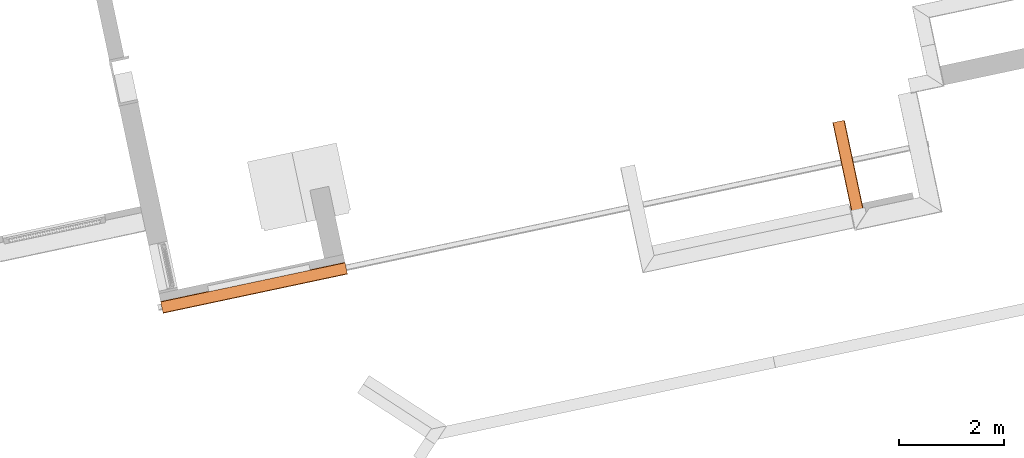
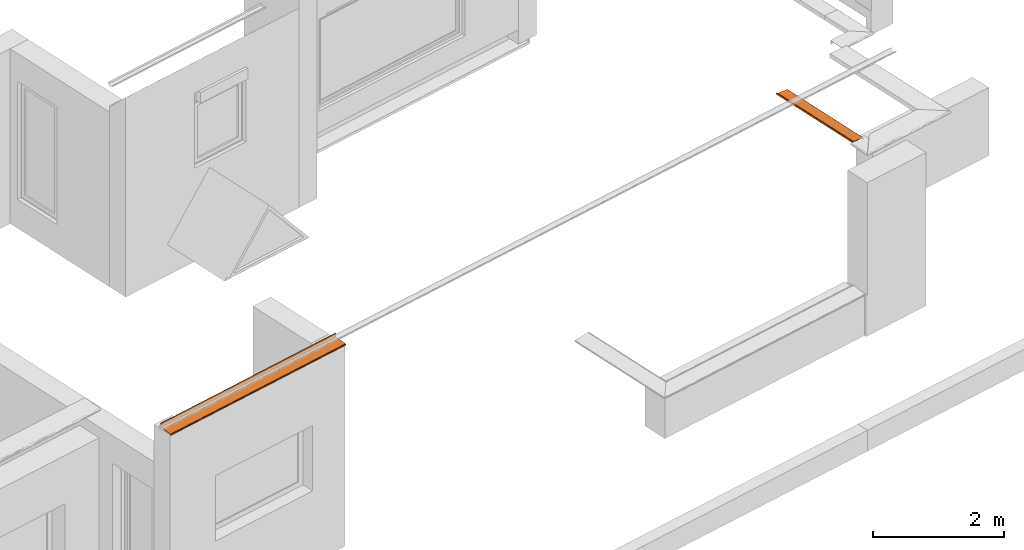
# One storey, part 16 of 22: 2 proxies.
"""IFC2X3 building model written with IfcOpenShell, lengths in centimetres."""

import ifcopenshell
import ifcopenshell.guid

model = None  # the IFC model being written
_history = None  # IfcOwnerHistory: only IFC2X3 demands one
_inside = {}  # id of a spatial element -> (the spatial element, [elements in it])
_under = {}  # id of a project, library or spatial element -> (it, [spatial elements below it])
_declared = {}  # id of a project -> (the project, [libraries it declares])
_typed = {}  # id of a type object -> (the type object, [elements of that type])
_made_of = {}  # id of a material, layer set ... -> (it, [elements and type objects made of it])


def new_model(schema):
    """Start an empty IFC model of exactly this schema.

    Asked for "IFC4X3", IfcOpenShell would pick the latest addendum, in which some entities
    have other attributes; the version numbers below select the first issue.
    IFC2X3 requires an IfcOwnerHistory on every rooted entity: one is made here for all.
    """
    global model, _history
    if schema == "IFC4X3":
        model = ifcopenshell.file(schema_version=(4, 3, 0, 0))
    else:
        model = ifcopenshell.file(schema=schema)
    _inside.clear()
    _under.clear()
    _declared.clear()
    _typed.clear()
    _made_of.clear()
    _history = None
    if model.schema == "IFC2X3":
        org = make("IfcOrganization", Name="unknown")
        user = make(
            "IfcPersonAndOrganization",
            ThePerson=make("IfcPerson", FamilyName="unknown"),
            TheOrganization=org,
        )
        app = make(
            "IfcApplication",
            ApplicationDeveloper=org,
            Version="unknown",
            ApplicationFullName="unknown",
            ApplicationIdentifier="unknown",
        )
        _history = make(
            "IfcOwnerHistory",
            OwningUser=user,
            OwningApplication=app,
            ChangeAction="ADDED",
            CreationDate=0,
        )
    return model


def make(cls, **values):
    """One entity of the class cls with the attributes given. An attribute that is None is left unset."""
    return model.create_entity(
        cls, **{name: value for name, value in values.items() if value is not None}
    )


def entity(cls, *values):
    """Any entity or typed value of the class cls, its attributes in the order of the schema. None: left unset."""
    e = model.create_entity(cls)
    for i, value in enumerate(values):
        if value is not None:
            e[i] = value
    return e


def rooted(cls, **values):
    """An entity with a GlobalId (a new one), such as an element, a storey or a relation."""
    return make(cls, GlobalId=ifcopenshell.guid.new(), OwnerHistory=_history, **values)


def si_unit(unit_type, name, prefix=None):
    """IfcSIUnit, for example si_unit("LENGTHUNIT", "METRE", prefix="MILLI")."""
    return make("IfcSIUnit", UnitType=unit_type, Prefix=prefix, Name=name)


def converted_unit(unit_type, name, factor, base, dimensions=None, offset=None):
    """IfcConversionBasedUnit, such as the inch: factor (a typed value) times the base unit."""
    return make(
        "IfcConversionBasedUnit"
        if offset is None
        else "IfcConversionBasedUnitWithOffset",
        ConversionOffset=offset,
        Dimensions=None
        if dimensions is None
        else entity("IfcDimensionalExponents", *dimensions),
        UnitType=unit_type,
        Name=name,
        ConversionFactor=make(
            "IfcMeasureWithUnit", ValueComponent=factor, UnitComponent=base
        ),
    )


def derived_unit(unit_type, elements):
    """IfcDerivedUnit: a product of units, each with its exponent."""
    return make(
        "IfcDerivedUnit",
        Elements=[
            make("IfcDerivedUnitElement", Unit=unit, Exponent=power)
            for unit, power in elements
        ],
        UnitType=unit_type,
    )


def assignment(units):
    """IfcUnitAssignment: the units of a project."""
    return None if units is None else make("IfcUnitAssignment", Units=units)


def point(xyz):
    """IfcCartesianPoint."""
    return None if xyz is None else make("IfcCartesianPoint", Coordinates=xyz)


def direction(xyz):
    """IfcDirection."""
    return None if xyz is None else make("IfcDirection", DirectionRatios=xyz)


def frame(location, z_axis=None, x_axis=None):
    """IfcAxis2Placement3D, a coordinate frame: its origin and axes. An axis left out is left unset."""
    return make(
        "IfcAxis2Placement3D",
        Location=point(location),
        Axis=direction(z_axis),
        RefDirection=direction(x_axis),
    )


def frame_2d(location, x_axis=None):
    """IfcAxis2Placement2D, a coordinate frame in the plane: its origin and x axis."""
    return make(
        "IfcAxis2Placement2D", Location=point(location), RefDirection=direction(x_axis)
    )


def origin():
    """The frame at (0, 0, 0) with its axes left unset."""
    return frame((0.0, 0.0, 0.0))


def place(relative_to, where):
    """IfcLocalPlacement: puts the frame where relative to a parent placement (None: the world)."""
    return make(
        "IfcLocalPlacement", PlacementRelTo=relative_to, RelativePlacement=where
    )


def context(
    kind, dimensions, precision=None, world=None, true_north=None, identifier=None
):
    """IfcGeometricRepresentationContext, for example the 3D "Model" context."""
    return make(
        "IfcGeometricRepresentationContext",
        ContextIdentifier=identifier,
        ContextType=kind,
        CoordinateSpaceDimension=dimensions,
        Precision=precision,
        WorldCoordinateSystem=world,
        TrueNorth=true_north,
    )


def subcontext(parent, identifier, kind, view, scale=None):
    """IfcGeometricRepresentationSubContext, for example "Body" below "Model"."""
    return make(
        "IfcGeometricRepresentationSubContext",
        ContextIdentifier=identifier,
        ContextType=kind,
        ParentContext=parent,
        TargetScale=scale,
        TargetView=view,
    )


def project(units=None, contexts=None):
    """IfcProject with its units and contexts."""
    return rooted(
        "IfcProject",
        Name="project",
        RepresentationContexts=contexts,
        UnitsInContext=assignment(units),
    )


def spatial(cls, under=None, at=None, **own):
    """A site, building, storey or space (cls), placed at a placement, below another one or the project."""
    s = rooted(cls, ObjectPlacement=at, **own)
    if under is not None:
        _under.setdefault(under.id(), (under, []))[1].append(s)
    return s


def polyline(points):
    """IfcPolyline through the points."""
    return make("IfcPolyline", Points=[point(p) for p in points])


def circle_curve(where, radius):
    """IfcCircle in the frame where."""
    return make("IfcCircle", Position=where, Radius=radius)


def parameter(value):
    """IfcParameterValue: where a trimmed curve begins or ends, as a parameter of its basis curve."""
    return model.create_entity("IfcParameterValue", value)


def trimmed(basis, trim1, trim2, sense, master):
    """IfcTrimmedCurve: the piece of a basis curve between two trims."""
    return make(
        "IfcTrimmedCurve",
        BasisCurve=basis,
        Trim1=trim1,
        Trim2=trim2,
        SenseAgreement=sense,
        MasterRepresentation=master,
    )


def segment(curve, same_sense, transition):
    """IfcCompositeCurveSegment."""
    return make(
        "IfcCompositeCurveSegment",
        Transition=transition,
        SameSense=same_sense,
        ParentCurve=curve,
    )


def composite_curve(segments, self_intersect=None):
    """IfcCompositeCurve: segments joined end to end."""
    return make("IfcCompositeCurve", Segments=segments, SelfIntersect=self_intersect)


def outline(outer, holes=None, kind="AREA"):
    """IfcArbitraryClosedProfileDef: a profile drawn as a closed curve; with holes, ...WithVoids."""
    if holes is None:
        return make("IfcArbitraryClosedProfileDef", ProfileType=kind, OuterCurve=outer)
    return make(
        "IfcArbitraryProfileDefWithVoids",
        ProfileType=kind,
        OuterCurve=outer,
        InnerCurves=holes,
    )


def extrude(swept, where, along, depth):
    """IfcExtrudedAreaSolid: the profile swept, set in the frame where, extruded along a direction by depth."""
    return make(
        "IfcExtrudedAreaSolid",
        SweptArea=swept,
        Position=where,
        ExtrudedDirection=direction(along),
        Depth=depth,
    )


def shape(context_of_items, identifier, shape_type, items):
    """IfcShapeRepresentation: the items that make up one representation, for example the "Body"."""
    return make(
        "IfcShapeRepresentation",
        ContextOfItems=context_of_items,
        RepresentationIdentifier=identifier,
        RepresentationType=shape_type,
        Items=items,
    )


def made_of(thing, what):
    """Note that an element or type object is made of a material, layer set ...; save() writes the relation."""
    if what is not None:
        _made_of.setdefault(what.id(), (what, []))[1].append(thing)
    return thing


def type_object(cls, material=None, **own):
    """A type object (cls), such as IfcWallType, which elements share."""
    return made_of(rooted(cls, **own), material)


def element(
    cls,
    number,
    at=None,
    inside=None,
    cuts=None,
    type_object=None,
    material=None,
    context=None,
    identifier="Body",
    shape_type=None,
    held_by="IfcProductDefinitionShape",
    body=None,
    shapes=None,
    **own,
):
    """One element of the class cls, such as IfcWall. Its Tag is "e" and its number.

    at: its placement. inside: the storey or other place that contains it. cuts: it is an
    opening in that element (IfcRelVoidsElement). A single representation is given by context,
    identifier, shape_type and body (its items); several are given by shapes. held_by: the class
    of the entity that holds the representations. save() writes the other relations.
    """
    e = rooted(cls, Tag="e%d" % number, ObjectPlacement=at, **own)
    if body is not None:
        shapes = [shape(context, identifier, shape_type, body)]
    if shapes is not None:
        e.Representation = make(held_by, Representations=shapes)
    if inside is not None:
        _inside.setdefault(inside.id(), (inside, []))[1].append(e)
    if cuts is not None:
        rooted(
            "IfcRelVoidsElement", RelatingBuildingElement=cuts, RelatedOpeningElement=e
        )
    if type_object is not None:
        _typed.setdefault(type_object.id(), (type_object, []))[1].append(e)
    return made_of(e, material)


def aggregate(whole, parts):
    """IfcRelAggregates: a whole, such as a stair, and the parts it consists of."""
    return rooted("IfcRelAggregates", RelatingObject=whole, RelatedObjects=parts)


def save(model, path):
    """Write the relations noted so far, then the file.

    IfcRelAggregates (storeys below a building ...), IfcRelContainedInSpatialStructure (elements
    in a storey), IfcRelDefinesByType, IfcRelAssociatesMaterial and IfcRelDeclares: one each for
    every whole, place, type object, material and project.
    """
    for whole, parts in _under.values():
        aggregate(whole, parts)
    for where, things in _inside.values():
        rooted(
            "IfcRelContainedInSpatialStructure",
            RelatedElements=things,
            RelatingStructure=where,
        )
    for kind, things in _typed.values():
        rooted("IfcRelDefinesByType", RelatedObjects=things, RelatingType=kind)
    for what, things in _made_of.values():
        rooted("IfcRelAssociatesMaterial", RelatedObjects=things, RelatingMaterial=what)
    for by, libraries in _declared.values():
        rooted("IfcRelDeclares", RelatingContext=by, RelatedDefinitions=libraries)
    model.write(path)


model = new_model("IFC2X3")

# Units and contexts
model_context = context("Model", 3, precision=0.001, world=origin(), true_north=direction((6.12303176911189e-17, 1.0)))
body_context = subcontext(model_context, "Body", "Model", "MODEL_VIEW")
ifc_project = project(units=[si_unit("LENGTHUNIT", "METRE", prefix="CENTI"), si_unit("AREAUNIT", "SQUARE_METRE"), si_unit("VOLUMEUNIT", "CUBIC_METRE"), converted_unit("PLANEANGLEUNIT", "DEGREE", entity("IfcRatioMeasure", 0.0174532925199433), si_unit("PLANEANGLEUNIT", "RADIAN"), dimensions=[0, 0, 0, 0, 0, 0, 0]), si_unit("MASSUNIT", "GRAM", prefix="KILO"), derived_unit("MASSDENSITYUNIT", [(si_unit("MASSUNIT", "GRAM", prefix="KILO"), 1), (si_unit("LENGTHUNIT", "METRE"), -3)]), derived_unit("IONCONCENTRATIONUNIT", [(si_unit("MASSUNIT", "GRAM", prefix="KILO"), 1), (si_unit("LENGTHUNIT", "METRE"), -3)]), derived_unit("MOMENTOFINERTIAUNIT", [(si_unit("LENGTHUNIT", "METRE"), 4)]), si_unit("TIMEUNIT", "SECOND"), si_unit("FREQUENCYUNIT", "HERTZ"), si_unit("THERMODYNAMICTEMPERATUREUNIT", "DEGREE_CELSIUS"), derived_unit("THERMALTRANSMITTANCEUNIT", [(si_unit("MASSUNIT", "GRAM", prefix="KILO"), 1), (si_unit("THERMODYNAMICTEMPERATUREUNIT", "KELVIN"), -1), (si_unit("TIMEUNIT", "SECOND"), -3)]), derived_unit("THERMALCONDUCTANCEUNIT", [(si_unit("MASSUNIT", "GRAM", prefix="KILO"), 1), (si_unit("THERMODYNAMICTEMPERATUREUNIT", "KELVIN"), -1), (si_unit("TIMEUNIT", "SECOND"), -3), (si_unit("LENGTHUNIT", "METRE"), 1)]), derived_unit("VOLUMETRICFLOWRATEUNIT", [(si_unit("LENGTHUNIT", "METRE"), 3), (si_unit("TIMEUNIT", "SECOND"), -1)]), derived_unit("MASSFLOWRATEUNIT", [(si_unit("MASSUNIT", "GRAM", prefix="KILO"), 1), (si_unit("TIMEUNIT", "SECOND"), -1)]), derived_unit("ROTATIONALFREQUENCYUNIT", [(si_unit("TIMEUNIT", "SECOND"), -1)]), si_unit("ELECTRICCURRENTUNIT", "AMPERE"), si_unit("ELECTRICVOLTAGEUNIT", "VOLT"), si_unit("POWERUNIT", "WATT"), si_unit("FORCEUNIT", "NEWTON", prefix="KILO"), si_unit("ILLUMINANCEUNIT", "LUX"), si_unit("LUMINOUSFLUXUNIT", "LUMEN"), si_unit("LUMINOUSINTENSITYUNIT", "CANDELA"), derived_unit("USERDEFINED", [(si_unit("MASSUNIT", "GRAM", prefix="KILO"), -1), (si_unit("LENGTHUNIT", "METRE"), -2), (si_unit("TIMEUNIT", "SECOND"), 3), (si_unit("LUMINOUSFLUXUNIT", "LUMEN"), 1)]), derived_unit("USERDEFINED", [(si_unit("MASSUNIT", "GRAM", prefix="KILO"), 1), (si_unit("TIMEUNIT", "SECOND"), -3), (si_unit("LENGTHUNIT", "METRE"), 3), (si_unit("ELECTRICCURRENTUNIT", "AMPERE"), -2)]), derived_unit("SOUNDPOWERUNIT", [(si_unit("MASSUNIT", "GRAM", prefix="KILO"), 1), (si_unit("TIMEUNIT", "SECOND"), -3), (si_unit("LENGTHUNIT", "METRE"), 2)]), derived_unit("SOUNDPRESSUREUNIT", [(si_unit("MASSUNIT", "GRAM", prefix="KILO"), 1), (si_unit("LENGTHUNIT", "METRE"), -1), (si_unit("TIMEUNIT", "SECOND"), -2)]), derived_unit("LINEARVELOCITYUNIT", [(si_unit("LENGTHUNIT", "METRE"), 1), (si_unit("TIMEUNIT", "SECOND"), -1)]), si_unit("PRESSUREUNIT", "PASCAL"), derived_unit("USERDEFINED", [(si_unit("MASSUNIT", "GRAM", prefix="KILO"), 1), (si_unit("LENGTHUNIT", "METRE"), -2), (si_unit("TIMEUNIT", "SECOND"), -2)]), derived_unit("LINEARFORCEUNIT", [(si_unit("MASSUNIT", "GRAM", prefix="KILO"), 1), (si_unit("TIMEUNIT", "SECOND"), -2)]), derived_unit("PLANARFORCEUNIT", [(si_unit("MASSUNIT", "GRAM", prefix="KILO"), 1), (si_unit("LENGTHUNIT", "METRE"), -1), (si_unit("TIMEUNIT", "SECOND"), -2)]), derived_unit("SPECIFICHEATCAPACITYUNIT", [(si_unit("THERMODYNAMICTEMPERATUREUNIT", "KELVIN"), -1), (si_unit("LENGTHUNIT", "METRE"), 2), (si_unit("TIMEUNIT", "SECOND"), -2)]), derived_unit("HEATINGVALUEUNIT", [(si_unit("LENGTHUNIT", "METRE"), 2), (si_unit("TIMEUNIT", "SECOND"), -2)]), derived_unit("VAPORPERMEABILITYUNIT", [(si_unit("LENGTHUNIT", "METRE"), -1), (si_unit("TIMEUNIT", "SECOND"), 1)]), derived_unit("DYNAMICVISCOSITYUNIT", [(si_unit("MASSUNIT", "GRAM", prefix="KILO"), 1), (si_unit("TIMEUNIT", "SECOND"), -1), (si_unit("LENGTHUNIT", "METRE"), -1)]), derived_unit("THERMALEXPANSIONCOEFFICIENTUNIT", [(si_unit("THERMODYNAMICTEMPERATUREUNIT", "KELVIN"), -1)]), derived_unit("MODULUSOFELASTICITYUNIT", [(si_unit("MASSUNIT", "GRAM", prefix="KILO"), 1), (si_unit("LENGTHUNIT", "METRE"), -1), (si_unit("TIMEUNIT", "SECOND"), -2)]), derived_unit("ISOTHERMALMOISTURECAPACITYUNIT", [(si_unit("LENGTHUNIT", "METRE"), 3), (si_unit("MASSUNIT", "GRAM", prefix="KILO"), -1)]), derived_unit("MOISTUREDIFFUSIVITYUNIT", [(si_unit("TIMEUNIT", "SECOND"), -1), (si_unit("LENGTHUNIT", "METRE"), 2)])], contexts=[model_context])

# Site, building, storey
site_placement = place(None, frame((14083.8920177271, -6853.25409548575, 6900.0), z_axis=(0.0, 0.0, 1.0), x_axis=(0.978188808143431, 0.207717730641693, 0.0)))
site = spatial("IfcSite", under=ifc_project, at=site_placement, Name="Surface", CompositionType="ELEMENT")
building_placement = place(site_placement, origin())
building = spatial("IfcBuilding", under=site, at=building_placement, CompositionType="ELEMENT")
storey_placement = place(building_placement, frame((0.0, 0.0, -17.0)))
storey = spatial("IfcBuildingStorey", under=building, at=storey_placement, Name="Rez de chaussée (SD)", CompositionType="ELEMENT", Elevation=-16.9999999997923)

# Proxies
building_element_proxy_type_1 = type_object("IfcBuildingElementProxyType", Name="5028824", PredefinedType="NOTDEFINED")
proxy_1_placement = place(storey_placement, origin())
element("IfcBuildingElementProxy", 1, at=proxy_1_placement, inside=storey, type_object=building_element_proxy_type_1, Name="5028824", context=body_context, shape_type="SweptSolid", body=[
    extrude(outline(polyline([(-2.06900612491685, 0.14470649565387), (19.9309938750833, 0.14470649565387), (20.6282398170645, 8.11426408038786), (19.632045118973, 8.2014198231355), (19.0146627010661, 1.14470649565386), (-2.06900612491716, 1.14470649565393), (-2.47488263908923, 1.09239226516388), (-2.85421798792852, 0.938875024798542), (-3.18222774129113, 0.69419094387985), (-3.43747227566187, 0.374337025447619), (-3.60327197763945, 0.000221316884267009), (-3.6687939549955, -0.403703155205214), (-3.62975947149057, -0.811036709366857), (-3.48872302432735, -1.1951583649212), (-3.25490488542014, -1.53096548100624), (-2.94358810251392, -1.79651401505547), (-2.57511940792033, -1.97445224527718), (-2.17533385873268, -2.05280922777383), (-2.12191508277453, -2.05569926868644), (-2.06900612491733, -2.05657395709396), (-2.06900612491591, -1.05657395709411), (-2.07789093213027, -1.05650824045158), (-2.0869218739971, -1.05624858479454), (-2.23991689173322, -1.03174462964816), (-2.38187713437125, -0.968652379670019), (-2.50290837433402, -0.87126193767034), (-2.59491410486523, -0.746087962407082), (-2.65173937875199, -0.601503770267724), (-2.66958257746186, -0.447181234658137), (-2.64724976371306, -0.293443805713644), (-2.5862345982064, -0.150575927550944), (-2.49061846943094, -0.0281350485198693), (-2.36679751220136, 0.0656877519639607), (-2.22305499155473, 0.124615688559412), (-2.06900612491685, 0.14470649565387)])), frame((-7736.95514329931, 14677.6590670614, 376.532364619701), z_axis=(1.0, 0.0, 0.0), x_axis=(0.0, 0.996194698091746, 0.0871557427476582)), (0.0, 0.0, 1.0), 359.857864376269),
])
building_element_proxy_type_2 = type_object("IfcBuildingElementProxyType", Name="5114860", PredefinedType="NOTDEFINED")
proxy_2_placement = place(storey_placement, origin())
element("IfcBuildingElementProxy", 2, at=proxy_2_placement, inside=storey, type_object=building_element_proxy_type_2, Name="5114860", context=body_context, shape_type="SweptSolid", body=[
    extrude(outline(composite_curve([segment(polyline([(-10.8263010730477, -0.582720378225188), (11.1736989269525, -0.582720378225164)]), True, "CONTINUOUS"), segment(polyline([(11.1736989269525, -0.582720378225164), (11.4351661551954, 2.40586371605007)]), True, "CONTINUOUS"), segment(polyline([(11.4351661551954, 2.40586371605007), (10.4389714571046, 2.49301945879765)]), True, "CONTINUOUS"), segment(polyline([(10.4389714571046, 2.49301945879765), (10.2573677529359, 0.417279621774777)]), True, "CONTINUOUS"), segment(polyline([(10.2573677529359, 0.417279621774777), (-10.8263010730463, 0.41727962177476)]), True, "CONTINUOUS"), segment(trimmed(circle_curve(frame_2d((-10.8263010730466, -1.18336060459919), x_axis=(-0.99619469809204, 0.0871557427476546)), 1.60064022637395), [parameter(274.999999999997)], [parameter(94.9999999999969)], True, "PARAMETER"), True, "CONTINUOUS"), segment(polyline([(-10.826301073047, -2.78400083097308), (-10.8263010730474, -1.78400083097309)]), True, "CONTINUOUS"), segment(trimmed(circle_curve(frame_2d((-10.8263010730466, -1.18336060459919), x_axis=(-0.99619469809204, 0.0871557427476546)), 0.600640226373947), [parameter(274.999999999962)], [parameter(94.9999999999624)], True, "PARAMETER"), False, "CONTINUOUS")], self_intersect=False)), frame((-6399.96037964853, 14591.6324526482, 343.020271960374), z_axis=(0.0, 1.0, 0.0), x_axis=(-0.996194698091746, 0.0, 0.0871557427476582)), (0.0, 0.0, 1.0), 173.040025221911),
])

save(model, "model.ifc")
